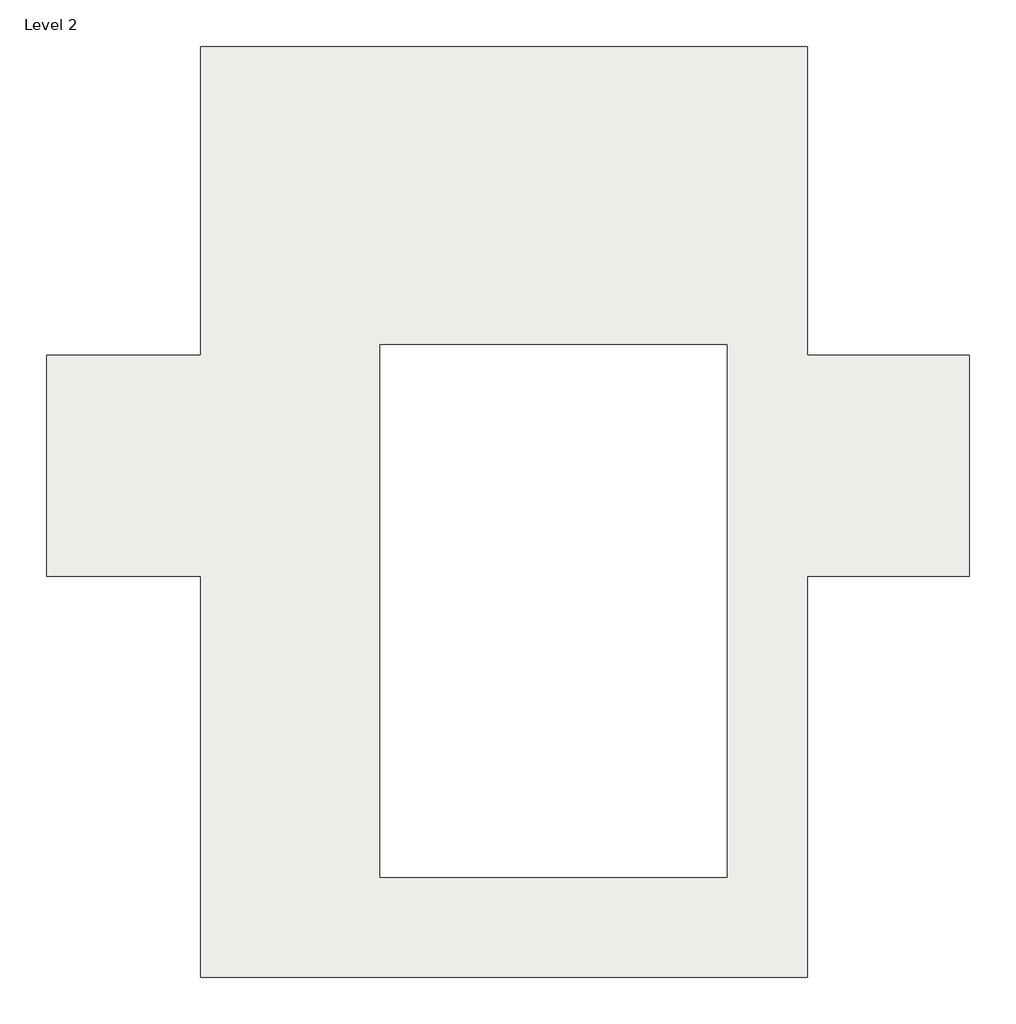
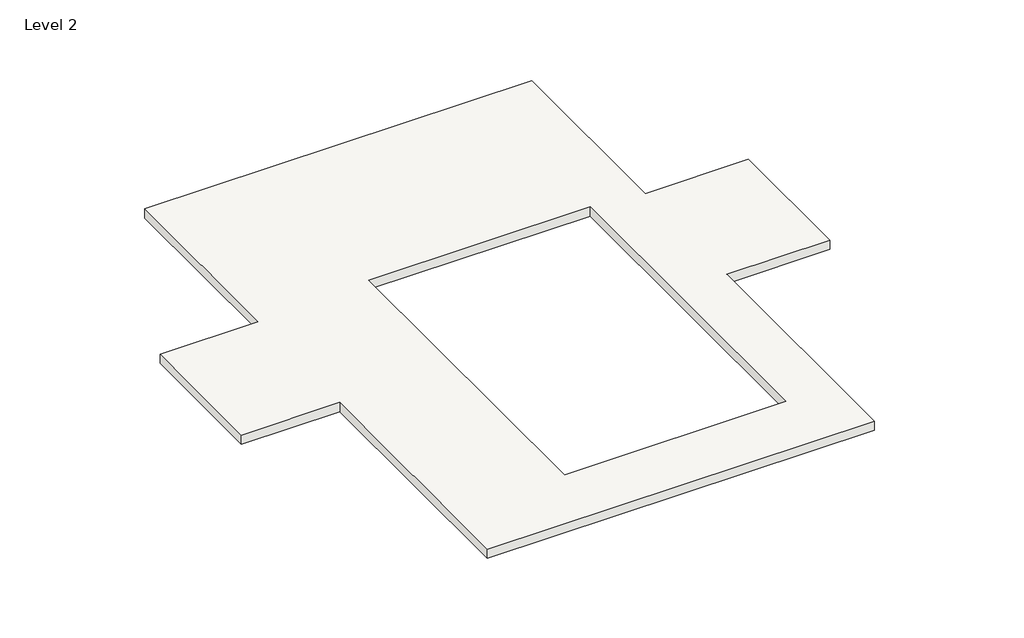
# One storey: 1 roof.
"""IFC4 building model written with IfcOpenShell, lengths in millimetres."""

import ifcopenshell
import ifcopenshell.guid

model = None  # the IFC model being written
_history = None  # IfcOwnerHistory: only IFC2X3 demands one
_inside = {}  # id of a spatial element -> (the spatial element, [elements in it])
_under = {}  # id of a project, library or spatial element -> (it, [spatial elements below it])
_declared = {}  # id of a project -> (the project, [libraries it declares])
_typed = {}  # id of a type object -> (the type object, [elements of that type])
_made_of = {}  # id of a material, layer set ... -> (it, [elements and type objects made of it])


def new_model(schema):
    """Start an empty IFC model of exactly this schema.

    Asked for "IFC4X3", IfcOpenShell would pick the latest addendum, in which some entities
    have other attributes; the version numbers below select the first issue.
    IFC2X3 requires an IfcOwnerHistory on every rooted entity: one is made here for all.
    """
    global model, _history
    if schema == "IFC4X3":
        model = ifcopenshell.file(schema_version=(4, 3, 0, 0))
    else:
        model = ifcopenshell.file(schema=schema)
    _inside.clear()
    _under.clear()
    _declared.clear()
    _typed.clear()
    _made_of.clear()
    _history = None
    if model.schema == "IFC2X3":
        org = make("IfcOrganization", Name="unknown")
        user = make(
            "IfcPersonAndOrganization",
            ThePerson=make("IfcPerson", FamilyName="unknown"),
            TheOrganization=org,
        )
        app = make(
            "IfcApplication",
            ApplicationDeveloper=org,
            Version="unknown",
            ApplicationFullName="unknown",
            ApplicationIdentifier="unknown",
        )
        _history = make(
            "IfcOwnerHistory",
            OwningUser=user,
            OwningApplication=app,
            ChangeAction="ADDED",
            CreationDate=0,
        )
    return model


def make(cls, **values):
    """One entity of the class cls with the attributes given. An attribute that is None is left unset."""
    return model.create_entity(
        cls, **{name: value for name, value in values.items() if value is not None}
    )


def rooted(cls, **values):
    """An entity with a GlobalId (a new one), such as an element, a storey or a relation."""
    return make(cls, GlobalId=ifcopenshell.guid.new(), OwnerHistory=_history, **values)


def si_unit(unit_type, name, prefix=None):
    """IfcSIUnit, for example si_unit("LENGTHUNIT", "METRE", prefix="MILLI")."""
    return make("IfcSIUnit", UnitType=unit_type, Prefix=prefix, Name=name)


def assignment(units):
    """IfcUnitAssignment: the units of a project."""
    return None if units is None else make("IfcUnitAssignment", Units=units)


def point(xyz):
    """IfcCartesianPoint."""
    return None if xyz is None else make("IfcCartesianPoint", Coordinates=xyz)


def direction(xyz):
    """IfcDirection."""
    return None if xyz is None else make("IfcDirection", DirectionRatios=xyz)


def frame(location, z_axis=None, x_axis=None):
    """IfcAxis2Placement3D, a coordinate frame: its origin and axes. An axis left out is left unset."""
    return make(
        "IfcAxis2Placement3D",
        Location=point(location),
        Axis=direction(z_axis),
        RefDirection=direction(x_axis),
    )


def origin():
    """The frame at (0, 0, 0) with its axes left unset."""
    return frame((0.0, 0.0, 0.0))


def place(relative_to, where):
    """IfcLocalPlacement: puts the frame where relative to a parent placement (None: the world)."""
    return make(
        "IfcLocalPlacement", PlacementRelTo=relative_to, RelativePlacement=where
    )


def context(
    kind, dimensions, precision=None, world=None, true_north=None, identifier=None
):
    """IfcGeometricRepresentationContext, for example the 3D "Model" context."""
    return make(
        "IfcGeometricRepresentationContext",
        ContextIdentifier=identifier,
        ContextType=kind,
        CoordinateSpaceDimension=dimensions,
        Precision=precision,
        WorldCoordinateSystem=world,
        TrueNorth=true_north,
    )


def project(units=None, contexts=None):
    """IfcProject with its units and contexts."""
    return rooted(
        "IfcProject",
        Name="project",
        RepresentationContexts=contexts,
        UnitsInContext=assignment(units),
    )


def spatial(cls, under=None, at=None, **own):
    """A site, building, storey or space (cls), placed at a placement, below another one or the project."""
    s = rooted(cls, ObjectPlacement=at, **own)
    if under is not None:
        _under.setdefault(under.id(), (under, []))[1].append(s)
    return s


def polyline(points):
    """IfcPolyline through the points."""
    return make("IfcPolyline", Points=[point(p) for p in points])


def outline(outer, holes=None, kind="AREA"):
    """IfcArbitraryClosedProfileDef: a profile drawn as a closed curve; with holes, ...WithVoids."""
    if holes is None:
        return make("IfcArbitraryClosedProfileDef", ProfileType=kind, OuterCurve=outer)
    return make(
        "IfcArbitraryProfileDefWithVoids",
        ProfileType=kind,
        OuterCurve=outer,
        InnerCurves=holes,
    )


def extrude(swept, where, along, depth):
    """IfcExtrudedAreaSolid: the profile swept, set in the frame where, extruded along a direction by depth."""
    return make(
        "IfcExtrudedAreaSolid",
        SweptArea=swept,
        Position=where,
        ExtrudedDirection=direction(along),
        Depth=depth,
    )


def shape(context_of_items, identifier, shape_type, items):
    """IfcShapeRepresentation: the items that make up one representation, for example the "Body"."""
    return make(
        "IfcShapeRepresentation",
        ContextOfItems=context_of_items,
        RepresentationIdentifier=identifier,
        RepresentationType=shape_type,
        Items=items,
    )


def made_of(thing, what):
    """Note that an element or type object is made of a material, layer set ...; save() writes the relation."""
    if what is not None:
        _made_of.setdefault(what.id(), (what, []))[1].append(thing)
    return thing


def element(
    cls,
    number,
    at=None,
    inside=None,
    cuts=None,
    type_object=None,
    material=None,
    context=None,
    identifier="Body",
    shape_type=None,
    held_by="IfcProductDefinitionShape",
    body=None,
    shapes=None,
    **own,
):
    """One element of the class cls, such as IfcWall. Its Tag is "e" and its number.

    at: its placement. inside: the storey or other place that contains it. cuts: it is an
    opening in that element (IfcRelVoidsElement). A single representation is given by context,
    identifier, shape_type and body (its items); several are given by shapes. held_by: the class
    of the entity that holds the representations. save() writes the other relations.
    """
    e = rooted(cls, Tag="e%d" % number, ObjectPlacement=at, **own)
    if body is not None:
        shapes = [shape(context, identifier, shape_type, body)]
    if shapes is not None:
        e.Representation = make(held_by, Representations=shapes)
    if inside is not None:
        _inside.setdefault(inside.id(), (inside, []))[1].append(e)
    if cuts is not None:
        rooted(
            "IfcRelVoidsElement", RelatingBuildingElement=cuts, RelatedOpeningElement=e
        )
    if type_object is not None:
        _typed.setdefault(type_object.id(), (type_object, []))[1].append(e)
    return made_of(e, material)


def aggregate(whole, parts):
    """IfcRelAggregates: a whole, such as a stair, and the parts it consists of."""
    return rooted("IfcRelAggregates", RelatingObject=whole, RelatedObjects=parts)


def save(model, path):
    """Write the relations noted so far, then the file.

    IfcRelAggregates (storeys below a building ...), IfcRelContainedInSpatialStructure (elements
    in a storey), IfcRelDefinesByType, IfcRelAssociatesMaterial and IfcRelDeclares: one each for
    every whole, place, type object, material and project.
    """
    for whole, parts in _under.values():
        aggregate(whole, parts)
    for where, things in _inside.values():
        rooted(
            "IfcRelContainedInSpatialStructure",
            RelatedElements=things,
            RelatingStructure=where,
        )
    for kind, things in _typed.values():
        rooted("IfcRelDefinesByType", RelatedObjects=things, RelatingType=kind)
    for what, things in _made_of.values():
        rooted("IfcRelAssociatesMaterial", RelatedObjects=things, RelatingMaterial=what)
    for by, libraries in _declared.values():
        rooted("IfcRelDeclares", RelatingContext=by, RelatedDefinitions=libraries)
    model.write(path)


model = new_model("IFC4")

# Units and contexts
model_context = context("Model", 3, world=origin())
ifc_project = project(units=[si_unit("LENGTHUNIT", "METRE", prefix="MILLI")], contexts=[model_context])

# Site, building, storey
site = spatial("IfcSite", under=ifc_project)
building = spatial("IfcBuilding", under=site)
storey = spatial("IfcBuildingStorey", under=building, Name="Level 2", Elevation=3048.0)

# Roof
placement = place(None, origin())
element("IfcRoof", 1, ObjectType="Generic - 12\"", at=placement, inside=storey, context=model_context, shape_type="SweptSolid", body=[
    extrude(outline(polyline([(-5458.4356569, 7987.4066271), (6530.3643431, 7987.4066271), (6530.3643431, 1891.4066271), (9730.7643431, 1891.4066271), (9730.7643431, -2477.3933729), (6530.3643431, -2477.3933729), (6530.3643431, -10402.1933729), (-5458.4356569, -10402.1933729), (-5458.4356569, -2477.3933729), (-8506.4356569, -2477.3933729), (-8506.4356569, 1891.4066271), (-5458.4356569, 1891.4066271), (-5458.4356569, 7987.4066271)]), holes=[polyline([(4940.246002, -8420.9933729), (4940.246002, 2094.6066271), (-1917.753998, 2094.6066271), (-1917.753998, -8420.9933729), (4940.246002, -8420.9933729)])]), frame((0.0, 0.0, 3048.0), z_axis=(0.0, 0.0, 1.0), x_axis=(1.0, 0.0, 0.0)), (0.0, 0.0, 1.0), 304.8),
])

save(model, "model.ifc")
